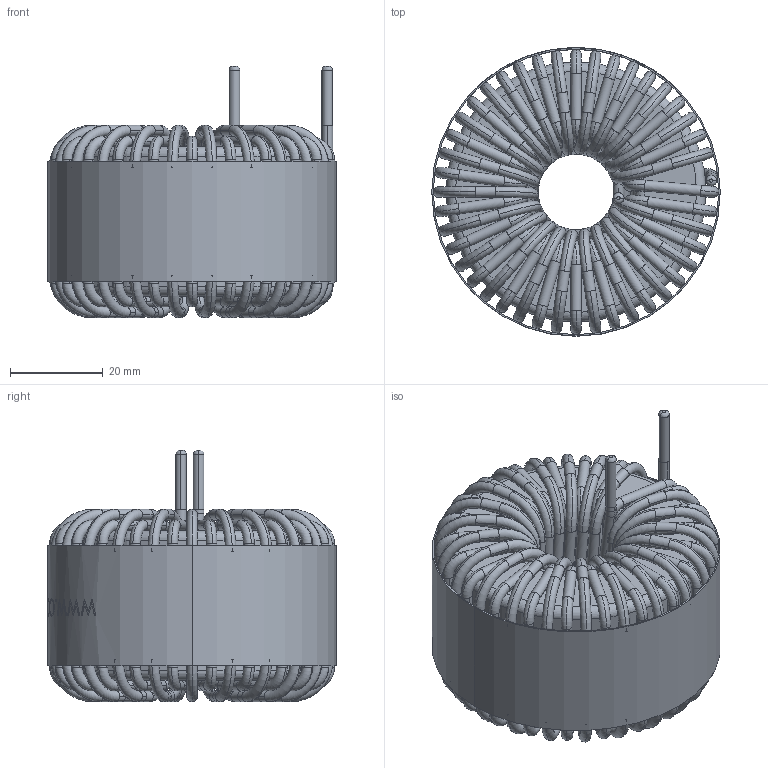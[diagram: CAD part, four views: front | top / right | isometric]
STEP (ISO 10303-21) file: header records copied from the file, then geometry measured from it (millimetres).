
FILE_DESCRIPTION (( 'STEP AP214' ), '1' );
FILE_NAME ('HF5712-561M-25AH.STEP', '2021-09-15T11:56:39', ( '' ), ( '' ), 'SwSTEP 2.0', 'SolidWorks 2015', '' );
FILE_SCHEMA (( 'AUTOMOTIVE_DESIGN' ));
Length unit declared in the file: millimetre
Products named in the file (4): HF5712-561M-25AH; WRAPPER; WINDING; CORE
Assembly tree (3 placements, depth 2):
  HF5712-561M-25AH
    CORE
    WINDING
    WRAPPER
Bounding box: 62.11 x 62.13 x 54.14 mm (x, y, z)
Volume: 82634.8 mm3; surface area: 54934.9 mm2
Topology: 51 solids, 51 shells, 1086 faces, 2876 edges, 1908 vertices
Faces by surface type: cylinder 478, torus 368, plane 137, bspline 103
Entity records: 55554 total; most frequent: CARTESIAN_POINT 16259, DIRECTION 6576, ORIENTED_EDGE 5752, AXIS2_PLACEMENT_3D 3047, EDGE_CURVE 2876, CIRCLE 2058, VERTEX_POINT 1908, EDGE_LOOP 1106
